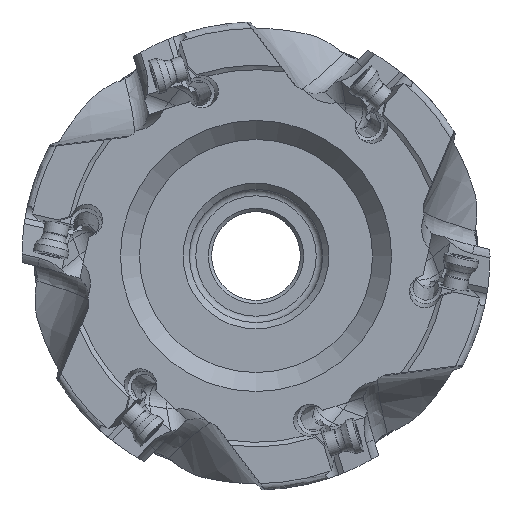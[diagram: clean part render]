
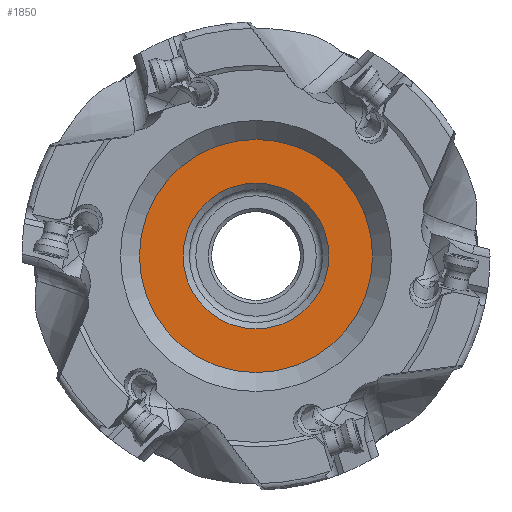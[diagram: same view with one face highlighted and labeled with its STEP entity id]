
A CAD part, left-side view. The second image highlights one B-rep face of the part: STEP entity #1850.
In plain terms, the highlighted planar face has unit normal (-1, 0, 0).
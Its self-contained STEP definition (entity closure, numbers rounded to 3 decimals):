
#1507=FACE_BOUND('',#3009,.T.);
#1508=FACE_BOUND('',#3010,.T.);
#1850=ADVANCED_FACE('',(#1507,#1508),#2241,.T.);
#2241=PLANE('',#9074);
#3009=EDGE_LOOP('',(#4264));
#3010=EDGE_LOOP('',(#4265));
#4264=ORIENTED_EDGE('',*,*,#7286,.T.);
#4265=ORIENTED_EDGE('',*,*,#7287,.F.);
#6296=VERTEX_POINT('',#14640);
#6297=VERTEX_POINT('',#14642);
#7286=EDGE_CURVE('',#6296,#6296,#8298,.T.);
#7287=EDGE_CURVE('',#6297,#6297,#8299,.T.);
#8298=CIRCLE('',#9072,11.5);
#8299=CIRCLE('',#9073,18.386);
#9072=AXIS2_PLACEMENT_3D('',#14639,#10842,#10843);
#9073=AXIS2_PLACEMENT_3D('',#14641,#10844,#10845);
#9074=AXIS2_PLACEMENT_3D('',#14643,#10846,#10847);
#10842=DIRECTION('',(1.,0.,0.));
#10843=DIRECTION('',(0.,0.,1.));
#10844=DIRECTION('',(1.,0.,0.));
#10845=DIRECTION('',(0.,0.,-1.));
#10846=DIRECTION('',(-1.,0.,0.));
#10847=DIRECTION('',(0.,0.,1.));
#14639=CARTESIAN_POINT('',(4.5,0.,0.));
#14640=CARTESIAN_POINT('',(4.5,0.,11.5));
#14641=CARTESIAN_POINT('',(4.5,0.,0.));
#14642=CARTESIAN_POINT('',(4.5,0.,-18.386));
#14643=CARTESIAN_POINT('',(4.5,18.386,0.));
